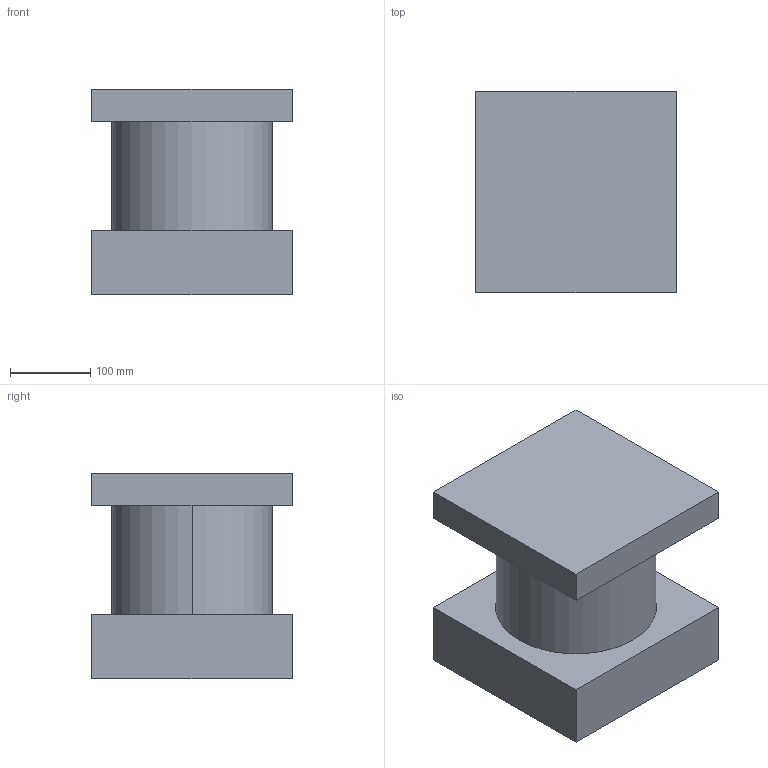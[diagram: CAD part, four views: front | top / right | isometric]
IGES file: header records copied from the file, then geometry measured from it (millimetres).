
Start section:  PTC IGES file: fr_dr_skid_foot.igs
Global section: file name: fr_dr_skid_foot.igs; native system: Pro/ENGINEER by Parametric Technology Corporation; preprocessor: 1999260; author: oshatz; organization: Unknown; date: 000922.101748; units: millimetre
Bounding box: 250 x 250 x 256 mm (x, y, z)
Surface area: 392619.5 mm2 (no closed solid volume)
Topology: 0 solids, 0 shells, 14 faces, 60 edges, 60 vertices
Faces by surface type: bspline 12, revolution 2
